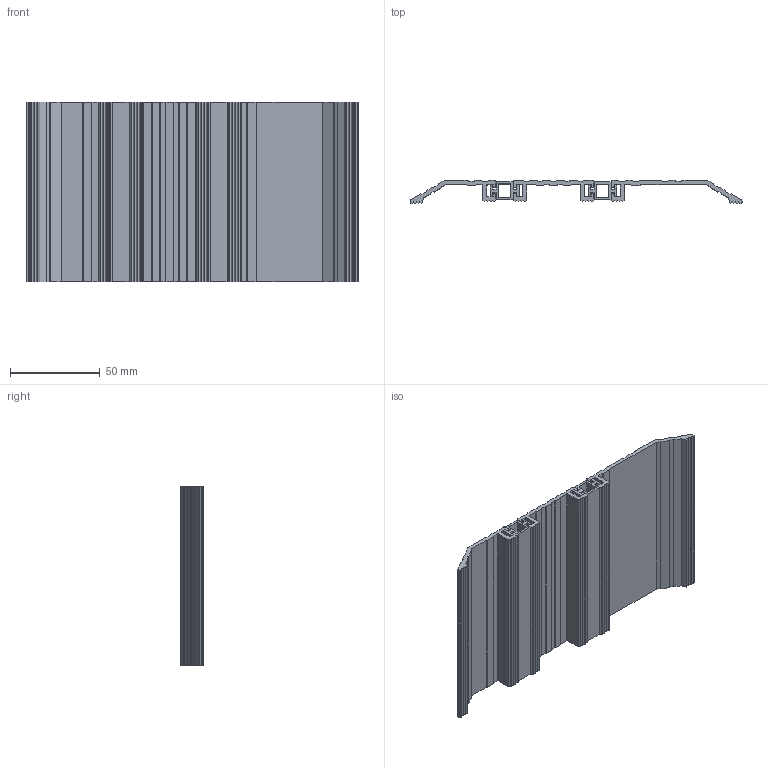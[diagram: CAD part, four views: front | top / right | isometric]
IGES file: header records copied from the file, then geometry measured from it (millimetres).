
Global section: file name: No Iges File Name specified; native system: Autodesk Inventor 2012; preprocessor: AutoDesk Inventor Iges Exporter R2012; author: anna.b; date: 20130718.150210; units: millimetre
Bounding box: 184.44 x 12.7 x 100 mm (x, y, z)
Volume: 67704.1 mm3; surface area: 71719.1 mm2
Topology: 5 solids, 5 shells, 322 faces, 936 edges, 624 vertices
Faces by surface type: plane 275, cylinder 27, revolution 20
